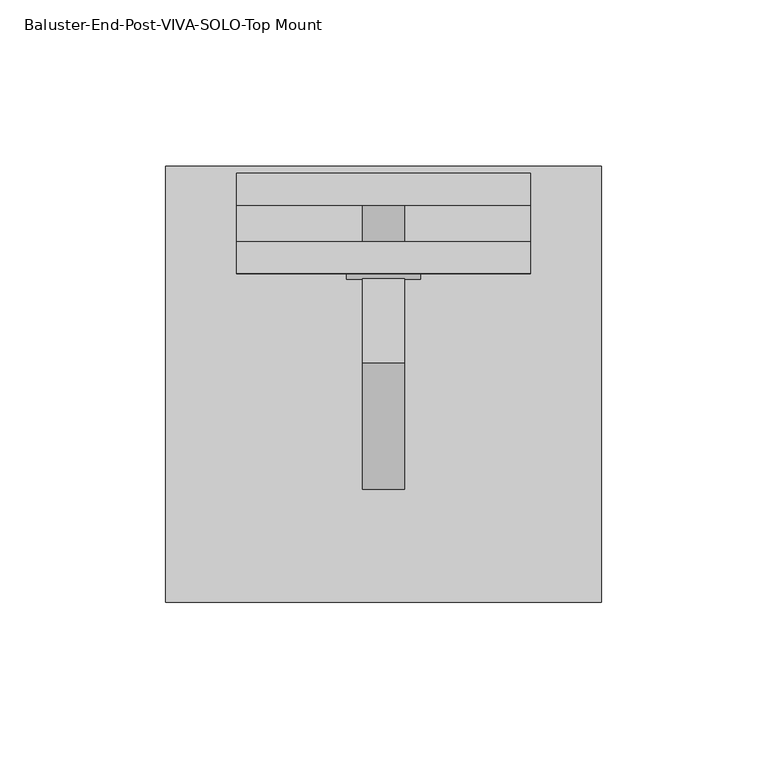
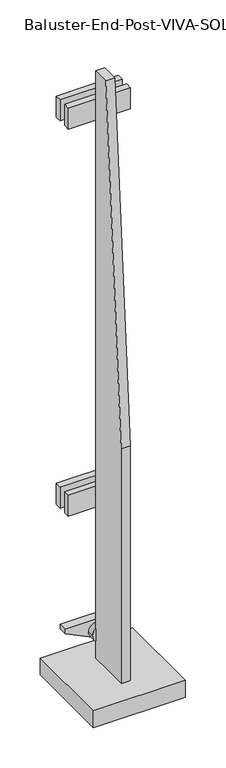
"""IFC4 building model written with IfcOpenShell, lengths in millimetres: proxy geometry, Baluster-End-Post-VIVA-SOLO-Top Mount : ANCHORED TO CONCRETE_TOP MOUNT FOLD_STRAIGHT."""

from ifc_helpers import new_model, si_unit, point, frame, frame_2d, origin, place, context, project, spatial, polyline, circle_curve, trimmed, segment, composite_curve, outline, extrude, source, transform, mapped, element, save


def baluster_end_post_viva_solo_top_mount_a5670d43(model_context):
    return source(origin(), model_context, "Body", "SweptSolid", [
        extrude(outline(composite_curve([segment(trimmed(circle_curve(frame_2d((268.5208758, 0.0)), 6.35), [point((268.5208758, 6.35))], [point((268.5208758, -6.35))], False, "CARTESIAN"), True, "CONTINUOUS"), segment(trimmed(circle_curve(frame_2d((268.5208758, 0.0)), 6.35), [point((268.5208758, -6.35))], [point((268.5208758, 6.35))], False, "CARTESIAN"), True, "CONTINUOUS")], self_intersect=False)), frame((0.0, -42.5925389, 0.0), z_axis=(0.0, 1.0, 0.0), x_axis=(0.0, 0.0, 1.0)), (0.0, 0.0, 1.0), 12.7),
        extrude(outline(composite_curve([segment(trimmed(circle_curve(frame_2d((854.776764, 0.0)), 6.35), [point((854.776764, 6.35))], [point((854.776764, -6.35))], False, "CARTESIAN"), True, "CONTINUOUS"), segment(trimmed(circle_curve(frame_2d((854.776764, 0.0)), 6.35), [point((854.776764, -6.35))], [point((854.776764, 6.35))], False, "CARTESIAN"), True, "CONTINUOUS")], self_intersect=False)), frame((0.0, -42.5925389, 0.0), z_axis=(0.0, 1.0, 0.0), x_axis=(0.0, 0.0, 1.0)), (0.0, 0.0, 1.0), 12.7),
        extrude(outline(composite_curve([segment(trimmed(circle_curve(frame_2d((60.8777263, 0.0)), 11.1125), [point((60.8777263, 11.1125))], [point((60.8777263, -11.1125))], False, "CARTESIAN"), True, "CONTINUOUS"), segment(trimmed(circle_curve(frame_2d((60.8777263, 0.0)), 11.1125), [point((60.8777263, -11.1125))], [point((60.8777263, 11.1125))], False, "CARTESIAN"), True, "CONTINUOUS")], self_intersect=False)), frame((0.0, -52.1175389, 0.0), z_axis=(0.0, 1.0, 0.0), x_axis=(0.0, 0.0, 1.0)), (0.0, 0.0, 1.0), 25.4),
        extrude(outline(polyline([(-52.1175389, 914.8205071), (-52.1175389, 0.4205071), (-115.6175389, 0.4205071), (-115.6175389, 381.4205071), (-77.5175389, 914.8205071), (-52.1175389, 914.8205071)])), frame((-6.35, 0.0, 0.0), z_axis=(1.0, 0.0, 0.0), x_axis=(0.0, 1.0, 0.0)), (0.0, 0.0, 1.0), 12.7),
        extrude(outline(polyline([(-44.45, -20.3675389), (44.45, -20.3675389), (44.45, -29.8925389), (-44.45, -29.8925389), (-44.45, -20.3675389)])), frame((0.0, 0.0, 838.7824344), z_axis=(0.0, 0.0, 1.0), x_axis=(1.0, 0.0, 0.0)), (0.0, 0.0, 1.0), 31.75),
        extrude(outline(polyline([(-44.45, -20.3675389), (44.45, -20.3675389), (44.45, -29.8925389), (-44.45, -29.8925389), (-44.45, -20.3675389)])), frame((0.0, 0.0, 252.4484609), z_axis=(0.0, 0.0, 1.0), x_axis=(1.0, 0.0, 0.0)), (0.0, 0.0, 1.0), 31.75),
        extrude(outline(polyline([(70.3302675, 44.45), (76.6802675, 44.45), (76.6802675, -44.45), (70.3302675, -44.45), (48.4156188, 0.0), (70.3302675, 44.45)])), frame((0.0, -42.5925389, 0.0), z_axis=(0.0, 1.0, 0.0), x_axis=(0.0, 0.0, 1.0)), (0.0, 0.0, 1.0), 12.7),
        extrude(outline(polyline([(-44.45, -40.984781), (44.45, -40.984781), (44.45, -50.509781), (-44.45, -50.509781), (-44.45, -40.984781)])), frame((0.0, 0.0, 838.7824344), z_axis=(0.0, 0.0, 1.0), x_axis=(1.0, 0.0, 0.0)), (0.0, 0.0, 1.0), 31.75),
        extrude(outline(polyline([(-44.45, -40.984781), (44.45, -40.984781), (44.45, -50.509781), (-44.45, -50.509781), (-44.45, -40.984781)])), frame((0.0, 0.0, 252.4484609), z_axis=(0.0, 0.0, 1.0), x_axis=(1.0, 0.0, 0.0)), (0.0, 0.0, 1.0), 31.75),
        extrude(outline(polyline([(65.88125, -17.9862889), (65.88125, -149.7487889), (-65.88125, -149.7487889), (-65.88125, -17.9862889), (65.88125, -17.9862889)])), frame((0.0, 0.0, 0.4205071), z_axis=(0.0, 0.0, 1.0), x_axis=(1.0, 0.0, 0.0)), (0.0, 0.0, 1.0), 25.4),
    ])


if __name__ == "__main__":
    model = new_model("IFC4")
    model_context = context("Model", 3, world=origin())
    ifc_project = project(units=[si_unit("LENGTHUNIT", "METRE", prefix="MILLI")], contexts=[model_context])
    site = spatial("IfcSite", under=ifc_project)
    building = spatial("IfcBuilding", under=site)
    placement = place(None, origin())
    baluster_end_post_viva_solo_top_mount_shape = baluster_end_post_viva_solo_top_mount_a5670d43(model_context)
    element("IfcBuildingElementProxy", 1, Name="Baluster-End-Post-VIVA-SOLO-Top Mount : ANCHORED TO CONCRETE_TOP MOUNT FOLD_STRAIGHT", ObjectType="Baluster-End-Post-VIVA-SOLO-Top Mount : ANCHORED TO CONCRETE_TOP MOUNT FOLD_STRAIGHT", at=placement, inside=building, context=model_context, shape_type="MappedRepresentation", body=[
        mapped(baluster_end_post_viva_solo_top_mount_shape, transform((0.0, 0.0, 0.0), x_axis=(1.0, 0.0, 0.0), y_axis=(0.0, 1.0, 0.0), z_axis=(0.0, 0.0, 1.0))),
    ])
    save(model, "model.ifc")
